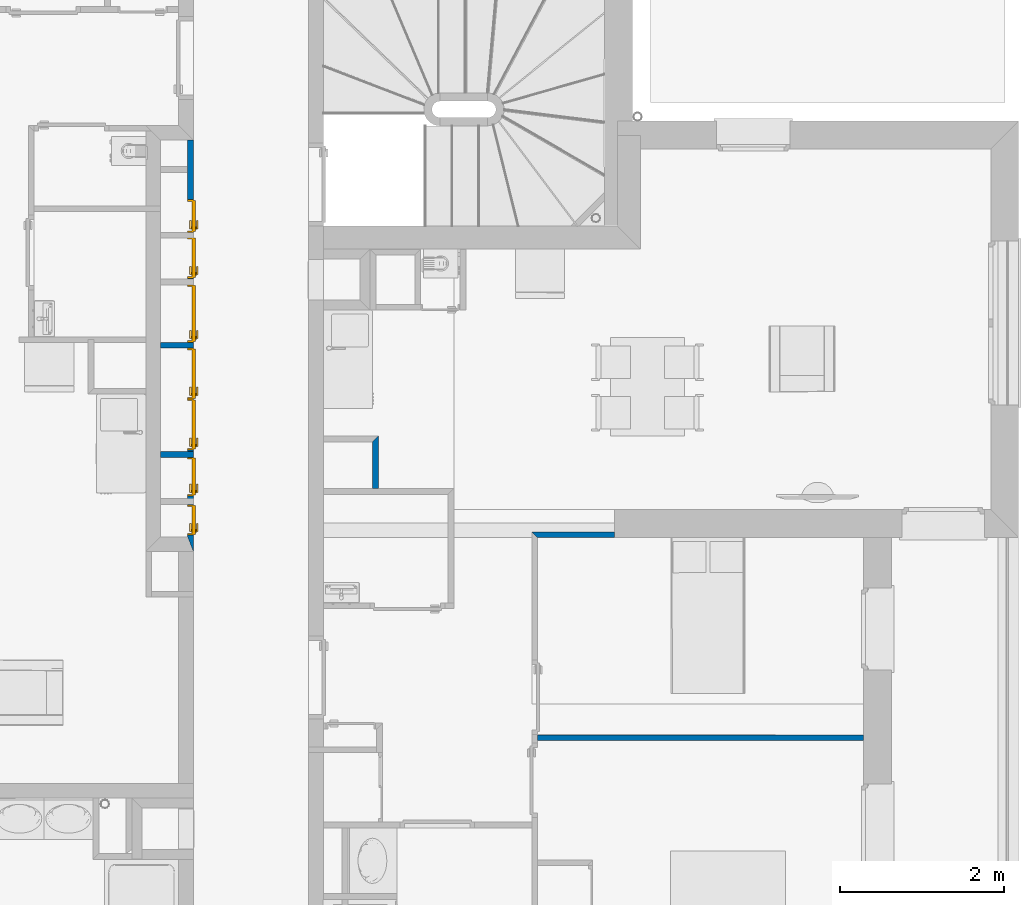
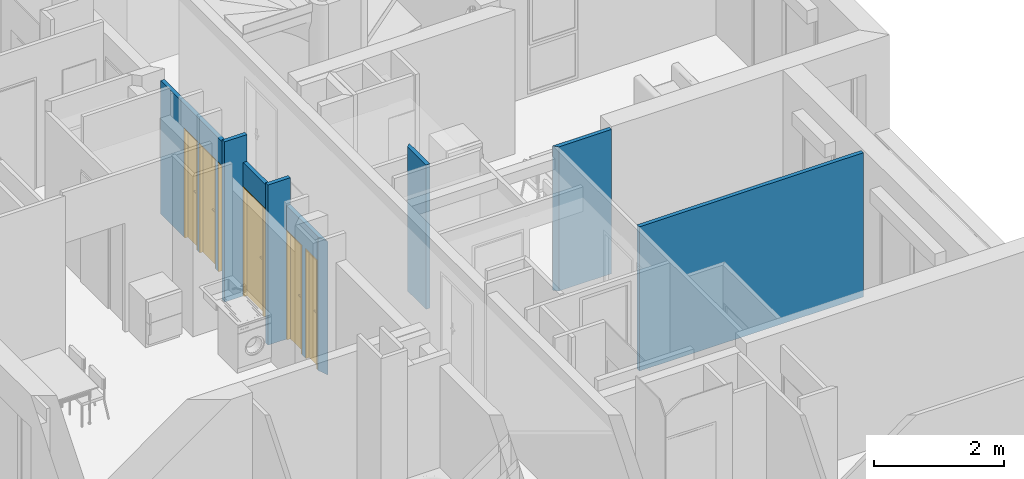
# One storey, part 23 of 164: 7 doors, 6 walls, 7 openings.
"""IFC2X3 building model written with IfcOpenShell, lengths in millimetres."""

import ifcopenshell
import ifcopenshell.guid

model = None  # the IFC model being written
_history = None  # IfcOwnerHistory: only IFC2X3 demands one
_inside = {}  # id of a spatial element -> (the spatial element, [elements in it])
_under = {}  # id of a project, library or spatial element -> (it, [spatial elements below it])
_declared = {}  # id of a project -> (the project, [libraries it declares])
_typed = {}  # id of a type object -> (the type object, [elements of that type])
_made_of = {}  # id of a material, layer set ... -> (it, [elements and type objects made of it])


def new_model(schema):
    """Start an empty IFC model of exactly this schema.

    Asked for "IFC4X3", IfcOpenShell would pick the latest addendum, in which some entities
    have other attributes; the version numbers below select the first issue.
    IFC2X3 requires an IfcOwnerHistory on every rooted entity: one is made here for all.
    """
    global model, _history
    if schema == "IFC4X3":
        model = ifcopenshell.file(schema_version=(4, 3, 0, 0))
    else:
        model = ifcopenshell.file(schema=schema)
    _inside.clear()
    _under.clear()
    _declared.clear()
    _typed.clear()
    _made_of.clear()
    _history = None
    if model.schema == "IFC2X3":
        org = make("IfcOrganization", Name="unknown")
        user = make(
            "IfcPersonAndOrganization",
            ThePerson=make("IfcPerson", FamilyName="unknown"),
            TheOrganization=org,
        )
        app = make(
            "IfcApplication",
            ApplicationDeveloper=org,
            Version="unknown",
            ApplicationFullName="unknown",
            ApplicationIdentifier="unknown",
        )
        _history = make(
            "IfcOwnerHistory",
            OwningUser=user,
            OwningApplication=app,
            ChangeAction="ADDED",
            CreationDate=0,
        )
    return model


def make(cls, **values):
    """One entity of the class cls with the attributes given. An attribute that is None is left unset."""
    return model.create_entity(
        cls, **{name: value for name, value in values.items() if value is not None}
    )


def entity(cls, *values):
    """Any entity or typed value of the class cls, its attributes in the order of the schema. None: left unset."""
    e = model.create_entity(cls)
    for i, value in enumerate(values):
        if value is not None:
            e[i] = value
    return e


def rooted(cls, **values):
    """An entity with a GlobalId (a new one), such as an element, a storey or a relation."""
    return make(cls, GlobalId=ifcopenshell.guid.new(), OwnerHistory=_history, **values)


def si_unit(unit_type, name, prefix=None):
    """IfcSIUnit, for example si_unit("LENGTHUNIT", "METRE", prefix="MILLI")."""
    return make("IfcSIUnit", UnitType=unit_type, Prefix=prefix, Name=name)


def converted_unit(unit_type, name, factor, base, dimensions=None, offset=None):
    """IfcConversionBasedUnit, such as the inch: factor (a typed value) times the base unit."""
    return make(
        "IfcConversionBasedUnit"
        if offset is None
        else "IfcConversionBasedUnitWithOffset",
        ConversionOffset=offset,
        Dimensions=None
        if dimensions is None
        else entity("IfcDimensionalExponents", *dimensions),
        UnitType=unit_type,
        Name=name,
        ConversionFactor=make(
            "IfcMeasureWithUnit", ValueComponent=factor, UnitComponent=base
        ),
    )


def derived_unit(unit_type, elements):
    """IfcDerivedUnit: a product of units, each with its exponent."""
    return make(
        "IfcDerivedUnit",
        Elements=[
            make("IfcDerivedUnitElement", Unit=unit, Exponent=power)
            for unit, power in elements
        ],
        UnitType=unit_type,
    )


def money_unit(currency):
    """IfcMonetaryUnit."""
    return make("IfcMonetaryUnit", Currency=currency)


def assignment(units):
    """IfcUnitAssignment: the units of a project."""
    return None if units is None else make("IfcUnitAssignment", Units=units)


def point(xyz):
    """IfcCartesianPoint."""
    return None if xyz is None else make("IfcCartesianPoint", Coordinates=xyz)


def direction(xyz):
    """IfcDirection."""
    return None if xyz is None else make("IfcDirection", DirectionRatios=xyz)


def frame(location, z_axis=None, x_axis=None):
    """IfcAxis2Placement3D, a coordinate frame: its origin and axes. An axis left out is left unset."""
    return make(
        "IfcAxis2Placement3D",
        Location=point(location),
        Axis=direction(z_axis),
        RefDirection=direction(x_axis),
    )


def frame_2d(location, x_axis=None):
    """IfcAxis2Placement2D, a coordinate frame in the plane: its origin and x axis."""
    return make(
        "IfcAxis2Placement2D", Location=point(location), RefDirection=direction(x_axis)
    )


def origin_with_axes():
    """The frame at (0, 0, 0) with the z axis (0, 0, 1) and the x axis (1, 0, 0) written out."""
    return frame((0.0, 0.0, 0.0), z_axis=(0.0, 0.0, 1.0), x_axis=(1.0, 0.0, 0.0))


def origin_2d_with_axis():
    """The frame at (0, 0) in the plane with the x axis (1, 0) written out."""
    return frame_2d((0.0, 0.0), x_axis=(1.0, 0.0))


def place(relative_to, where):
    """IfcLocalPlacement: puts the frame where relative to a parent placement (None: the world)."""
    return make(
        "IfcLocalPlacement", PlacementRelTo=relative_to, RelativePlacement=where
    )


def context(
    kind, dimensions, precision=None, world=None, true_north=None, identifier=None
):
    """IfcGeometricRepresentationContext, for example the 3D "Model" context."""
    return make(
        "IfcGeometricRepresentationContext",
        ContextIdentifier=identifier,
        ContextType=kind,
        CoordinateSpaceDimension=dimensions,
        Precision=precision,
        WorldCoordinateSystem=world,
        TrueNorth=true_north,
    )


def subcontext(parent, identifier, kind, view, scale=None):
    """IfcGeometricRepresentationSubContext, for example "Body" below "Model"."""
    return make(
        "IfcGeometricRepresentationSubContext",
        ContextIdentifier=identifier,
        ContextType=kind,
        ParentContext=parent,
        TargetScale=scale,
        TargetView=view,
    )


def project(units=None, contexts=None):
    """IfcProject with its units and contexts."""
    return rooted(
        "IfcProject",
        Name="project",
        RepresentationContexts=contexts,
        UnitsInContext=assignment(units),
    )


def spatial(cls, under=None, at=None, **own):
    """A site, building, storey or space (cls), placed at a placement, below another one or the project."""
    s = rooted(cls, ObjectPlacement=at, **own)
    if under is not None:
        _under.setdefault(under.id(), (under, []))[1].append(s)
    return s


def polyline(points):
    """IfcPolyline through the points."""
    return make("IfcPolyline", Points=[point(p) for p in points])


def profile(cls, at=None, kind="AREA", **sizes):
    """A parametric profile (cls). Its sizes go by their IFC names, for example OverallWidth=200.0."""
    return make(cls, ProfileType=kind, Position=at, **sizes)


def rectangle(**sizes):
    """IfcRectangleProfileDef."""
    return profile("IfcRectangleProfileDef", **sizes)


def outline(outer, holes=None, kind="AREA"):
    """IfcArbitraryClosedProfileDef: a profile drawn as a closed curve; with holes, ...WithVoids."""
    if holes is None:
        return make("IfcArbitraryClosedProfileDef", ProfileType=kind, OuterCurve=outer)
    return make(
        "IfcArbitraryProfileDefWithVoids",
        ProfileType=kind,
        OuterCurve=outer,
        InnerCurves=holes,
    )


def extrude(swept, where, along, depth):
    """IfcExtrudedAreaSolid: the profile swept, set in the frame where, extruded along a direction by depth."""
    return make(
        "IfcExtrudedAreaSolid",
        SweptArea=swept,
        Position=where,
        ExtrudedDirection=direction(along),
        Depth=depth,
    )


def faces_of(points, faces, orient=None, outer=None):
    """IfcFace entities. A face is a list of loops; a loop is a list of indices into points, from 0.

    orient and outer hold one flag for each loop. By default every Orientation is true, the
    first loop of a face is its IfcFaceOuterBound and the others are IfcFaceBound.
    """
    made = []
    for i, loops in enumerate(faces):
        bounds = []
        for j, loop in enumerate(loops):
            is_outer = j == 0 if outer is None else outer[i][j]
            bounds.append(
                make(
                    "IfcFaceOuterBound" if is_outer else "IfcFaceBound",
                    Bound=make("IfcPolyLoop", Polygon=[points[k] for k in loop]),
                    Orientation=True if orient is None else orient[i][j],
                )
            )
        made.append(make("IfcFace", Bounds=bounds))
    return made


def faceted_brep(points, faces, orient=None, outer=None, voids=None):
    """IfcFacetedBrep: a solid bounded by flat faces; with voids (closed shells), ...WithVoids."""
    shared = [point(p) for p in points]
    hull = make("IfcClosedShell", CfsFaces=faces_of(shared, faces, orient, outer))
    if voids is None:
        return make("IfcFacetedBrep", Outer=hull)
    return make(
        "IfcFacetedBrepWithVoids",
        Outer=hull,
        Voids=[
            make(cls, CfsFaces=faces_of(shared, fs, o, b)) for cls, fs, o, b in voids
        ],
    )


def shape(context_of_items, identifier, shape_type, items):
    """IfcShapeRepresentation: the items that make up one representation, for example the "Body"."""
    return make(
        "IfcShapeRepresentation",
        ContextOfItems=context_of_items,
        RepresentationIdentifier=identifier,
        RepresentationType=shape_type,
        Items=items,
    )


def source(mapping_origin, context_of_items, identifier, shape_type, items):
    """IfcRepresentationMap: a shape defined once, which mapped items show again and again."""
    return make(
        "IfcRepresentationMap",
        MappingOrigin=mapping_origin,
        MappedRepresentation=shape(context_of_items, identifier, shape_type, items),
    )


def transform(
    local_origin,
    x_axis=None,
    y_axis=None,
    z_axis=None,
    scale=None,
    scale2=None,
    scale3=None,
    uniform=True,
):
    """IfcCartesianTransformationOperator3D, or its non-uniform kind. x_axis, y_axis, z_axis: its Axis1, 2, 3."""
    if uniform:
        return make(
            "IfcCartesianTransformationOperator3D",
            Axis1=direction(x_axis),
            Axis2=direction(y_axis),
            LocalOrigin=point(local_origin),
            Scale=scale,
            Axis3=direction(z_axis),
        )
    return make(
        "IfcCartesianTransformationOperator3DnonUniform",
        Axis1=direction(x_axis),
        Axis2=direction(y_axis),
        LocalOrigin=point(local_origin),
        Scale=scale,
        Axis3=direction(z_axis),
        Scale2=scale2,
        Scale3=scale3,
    )


def mapped(mapping_source, mapping_target):
    """IfcMappedItem: shows the shape of a source again, moved by a transform."""
    return make(
        "IfcMappedItem", MappingSource=mapping_source, MappingTarget=mapping_target
    )


def material(Name=None, Category=None):
    """IfcMaterial."""
    return make("IfcMaterial", Name=Name, Category=Category)


def layer(
    of_material, thickness, ventilated=None, Name=None, Category=None, Priority=None
):
    """IfcMaterialLayer: one layer of a wall or slab, of a material (None: an air gap)."""
    return make(
        "IfcMaterialLayer",
        Material=of_material,
        LayerThickness=thickness,
        IsVentilated=ventilated,
        Name=Name,
        Category=Category,
        Priority=Priority,
    )


def layer_set(layers, Name=None):
    """IfcMaterialLayerSet."""
    return make("IfcMaterialLayerSet", MaterialLayers=layers, LayerSetName=Name)


def layer_usage(for_layer_set, set_direction, sense, offset, extent=None):
    """IfcMaterialLayerSetUsage: how a layer set lies in its element."""
    return make(
        "IfcMaterialLayerSetUsage",
        ForLayerSet=for_layer_set,
        LayerSetDirection=set_direction,
        DirectionSense=sense,
        OffsetFromReferenceLine=offset,
        ReferenceExtent=extent,
    )


def made_of(thing, what):
    """Note that an element or type object is made of a material, layer set ...; save() writes the relation."""
    if what is not None:
        _made_of.setdefault(what.id(), (what, []))[1].append(thing)
    return thing


def type_object(cls, material=None, **own):
    """A type object (cls), such as IfcWallType, which elements share."""
    return made_of(rooted(cls, **own), material)


def element(
    cls,
    number,
    at=None,
    inside=None,
    cuts=None,
    type_object=None,
    material=None,
    context=None,
    identifier="Body",
    shape_type=None,
    held_by="IfcProductDefinitionShape",
    body=None,
    shapes=None,
    **own,
):
    """One element of the class cls, such as IfcWall. Its Tag is "e" and its number.

    at: its placement. inside: the storey or other place that contains it. cuts: it is an
    opening in that element (IfcRelVoidsElement). A single representation is given by context,
    identifier, shape_type and body (its items); several are given by shapes. held_by: the class
    of the entity that holds the representations. save() writes the other relations.
    """
    e = rooted(cls, Tag="e%d" % number, ObjectPlacement=at, **own)
    if body is not None:
        shapes = [shape(context, identifier, shape_type, body)]
    if shapes is not None:
        e.Representation = make(held_by, Representations=shapes)
    if inside is not None:
        _inside.setdefault(inside.id(), (inside, []))[1].append(e)
    if cuts is not None:
        rooted(
            "IfcRelVoidsElement", RelatingBuildingElement=cuts, RelatedOpeningElement=e
        )
    if type_object is not None:
        _typed.setdefault(type_object.id(), (type_object, []))[1].append(e)
    return made_of(e, material)


def fill(opening, filler):
    """IfcRelFillsElement: the door or window that sits in an opening."""
    return rooted(
        "IfcRelFillsElement",
        RelatingOpeningElement=opening,
        RelatedBuildingElement=filler,
    )


def aggregate(whole, parts):
    """IfcRelAggregates: a whole, such as a stair, and the parts it consists of."""
    return rooted("IfcRelAggregates", RelatingObject=whole, RelatedObjects=parts)


def save(model, path):
    """Write the relations noted so far, then the file.

    IfcRelAggregates (storeys below a building ...), IfcRelContainedInSpatialStructure (elements
    in a storey), IfcRelDefinesByType, IfcRelAssociatesMaterial and IfcRelDeclares: one each for
    every whole, place, type object, material and project.
    """
    for whole, parts in _under.values():
        aggregate(whole, parts)
    for where, things in _inside.values():
        rooted(
            "IfcRelContainedInSpatialStructure",
            RelatedElements=things,
            RelatingStructure=where,
        )
    for kind, things in _typed.values():
        rooted("IfcRelDefinesByType", RelatedObjects=things, RelatingType=kind)
    for what, things in _made_of.values():
        rooted("IfcRelAssociatesMaterial", RelatedObjects=things, RelatingMaterial=what)
    for by, libraries in _declared.values():
        rooted("IfcRelDeclares", RelatingContext=by, RelatedDefinitions=libraries)
    model.write(path)


model = new_model("IFC2X3")

# Units and contexts
model_context = context("Model", 3, precision=0.01, world=origin_with_axes(), true_north=direction((0.0, 1.0)))
body_context = subcontext(model_context, "Body", "Model", "MODEL_VIEW")
ifc_project = project(units=[si_unit("LENGTHUNIT", "METRE", prefix="MILLI"), si_unit("AREAUNIT", "SQUARE_METRE"), si_unit("VOLUMEUNIT", "CUBIC_METRE"), converted_unit("PLANEANGLEUNIT", "DEGREE", entity("IfcPlaneAngleMeasure", 0.0174532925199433), si_unit("PLANEANGLEUNIT", "RADIAN"), dimensions=[0, 0, 0, 0, 0, 0, 0]), money_unit("USD"), converted_unit("TIMEUNIT", "Year", entity("IfcTimeMeasure", 31557600.0), si_unit("TIMEUNIT", "SECOND"), dimensions=[0, 0, 1, 0, 0, 0, 0]), si_unit("MASSUNIT", "GRAM", prefix="KILO"), si_unit("THERMODYNAMICTEMPERATUREUNIT", "DEGREE_CELSIUS"), si_unit("LUMINOUSINTENSITYUNIT", "LUMEN"), si_unit("ENERGYUNIT", "JOULE", prefix="MEGA"), derived_unit("THERMALCONDUCTANCEUNIT", [(si_unit("POWERUNIT", "WATT"), 1), (si_unit("LENGTHUNIT", "METRE"), -1), (si_unit("THERMODYNAMICTEMPERATUREUNIT", "KELVIN"), -1)]), derived_unit("SPECIFICHEATCAPACITYUNIT", [(si_unit("ENERGYUNIT", "JOULE"), 1), (si_unit("MASSUNIT", "GRAM", prefix="KILO"), -1), (si_unit("THERMODYNAMICTEMPERATUREUNIT", "KELVIN"), -1)]), derived_unit("MASSDENSITYUNIT", [(si_unit("MASSUNIT", "GRAM", prefix="KILO"), 1), (si_unit("VOLUMEUNIT", "CUBIC_METRE"), -1)])], contexts=[model_context])

# Site, building, storey
site_placement = place(None, origin_with_axes())
site = spatial("IfcSite", under=ifc_project, at=site_placement, Name="Site", CompositionType="ELEMENT")
building_placement = place(site_placement, origin_with_axes())
building = spatial("IfcBuilding", under=site, at=building_placement, Name="Bâtiment", CompositionType="ELEMENT")
storey_placement = place(building_placement, frame((0.0, 0.0, 5750.0), z_axis=(0.0, 0.0, 1.0), x_axis=(1.0, 0.0, 0.0)))
storey = spatial("IfcBuildingStorey", under=building, at=storey_placement, Name="Etage1", CompositionType="ELEMENT", Elevation=5750.0)

# Walls
ifc_material_1 = material(Name="Hachure solide 268963992")
ifc_layer_1 = layer(ifc_material_1, 70.0, ventilated="UNKNOWN")
ifc_layer_set_1 = layer_set([ifc_layer_1], Name="Cloison 70 0826278243")
ifc_layer_usage_1 = layer_usage(ifc_layer_set_1, "AXIS2", "NEGATIVE", 0.0)
wall_type_1 = type_object("IfcWallType", Name="Cloison 70 0826278243 70", PredefinedType="NOTDEFINED")
wall_1_placement = place(storey_placement, frame((2223732.399968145, -638649.3890085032, 0.0), z_axis=(0.0, 0.0, 1.0), x_axis=(1.0, 0.0, 0.0)))
element("IfcWallStandardCase", 1, at=wall_1_placement, inside=storey, type_object=wall_type_1, material=ifc_layer_usage_1, Name="Mur-121", context=body_context, shape_type="SweptSolid", body=[
    extrude(outline(polyline([(180.0001527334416, -69.99999999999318), (580.0522319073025, -69.99999999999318), (580.0522319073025, 0.0), (180.0001527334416, 0.0), (180.0001527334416, -69.99999999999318)])), origin_with_axes(), (0.0, 0.0, 1.0), 3000.0),
])
ifc_layer_usage_2 = layer_usage(ifc_layer_set_1, "AXIS2", "NEGATIVE", 0.0)
wall_2_placement = place(storey_placement, frame((2223732.399920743, -639979.3889931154, 0.0), z_axis=(0.0, 0.0, 1.0), x_axis=(1.0, 0.0, 0.0)))
element("IfcWallStandardCase", 2, at=wall_2_placement, inside=storey, type_object=wall_type_1, material=ifc_layer_usage_2, Name="Mur-121", context=body_context, shape_type="SweptSolid", body=[
    extrude(outline(polyline([(180.0002001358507, -69.99999999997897), (580.0522801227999, -69.99999999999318), (580.0522801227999, 0.0), (180.0002001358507, 0.0), (180.0002001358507, -69.99999999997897)])), origin_with_axes(), (0.0, 0.0, 1.0), 3000.0),
])

# Wall, openings, doors
ifc_layer_usage_3 = layer_usage(ifc_layer_set_1, "AXIS2", "NEGATIVE", 0.0)
wall_3_placement = place(storey_placement, frame((2224312.400738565, -636187.2995732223, 0.0), z_axis=(0.0, 0.0, 1.0), x_axis=(-2.855749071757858e-07, -0.9999999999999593, 0.0)))
wall_3 = element("IfcWallStandardCase", 3, at=wall_3_placement, inside=storey, type_object=wall_type_1, material=ifc_layer_usage_3, Name="Mur-120", context=body_context, shape_type="SweptSolid", body=[
    extrude(outline(polyline([(0.0, -70.00000000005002), (4829.440247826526, -70.00000000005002), (5009.440402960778, 0.0), (0.0, 0.0), (0.0, -70.00000000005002)])), origin_with_axes(), (0.0, 0.0, 1.0), 2500.0),
])
opening_1_placement = place(wall_3_placement, frame((924.8478023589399, 0.0, 0.0), z_axis=(0.0, 0.0, 1.0), x_axis=(1.0, 0.0, 0.0)))
opening_1 = element("IfcOpeningElement", 4, at=opening_1_placement, cuts=wall_3, Name="Por-202", context=body_context, shape_type="SweptSolid", body=[
    extrude(rectangle(XDim=399.9999999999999, YDim=2050.0, at=origin_2d_with_axis()), frame((0.0, -70.00000000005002, 1025.0), z_axis=(0.0, -1.0, 0.0), x_axis=(-1.0, 0.0, 0.0)), (0.0, 0.0, -1.0), 140.0),
])
opening_2_placement = place(wall_3_placement, frame((2112.089435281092, 0.0, 0.0), z_axis=(0.0, 0.0, 1.0), x_axis=(1.0, 0.0, 0.0)))
opening_2 = element("IfcOpeningElement", 5, at=opening_2_placement, cuts=wall_3, Name="Por-202", context=body_context, shape_type="SweptSolid", body=[
    extrude(rectangle(XDim=700.0, YDim=2050.0, at=origin_2d_with_axis()), frame((0.0, -70.00000000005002, 1025.0), z_axis=(0.0, -1.0, 0.0), x_axis=(-1.0, 0.0, 0.0)), (0.0, 0.0, -1.0), 140.0),
])
opening_3_placement = place(wall_3_placement, frame((1432.092668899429, 0.0, 0.0), z_axis=(0.0, 0.0, 1.0), x_axis=(1.0, 0.0, 0.0)))
opening_3 = element("IfcOpeningElement", 6, at=opening_3_placement, cuts=wall_3, Name="Por-202", context=body_context, shape_type="SweptSolid", body=[
    extrude(rectangle(XDim=499.9999999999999, YDim=2050.0, at=origin_2d_with_axis()), frame((0.0, -70.00000000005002, 1025.0), z_axis=(0.0, -1.0, 0.0), x_axis=(-1.0, 0.0, 0.0)), (0.0, 0.0, -1.0), 140.0),
])
opening_4_placement = place(wall_3_placement, frame((2842.089458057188, 0.0, 0.0), z_axis=(0.0, 0.0, 1.0), x_axis=(1.0, 0.0, 0.0)))
opening_4 = element("IfcOpeningElement", 7, at=opening_4_placement, cuts=wall_3, Name="Por-202", context=body_context, shape_type="SweptSolid", body=[
    extrude(rectangle(XDim=619.9999999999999, YDim=2050.0, at=origin_2d_with_axis()), frame((0.0, -70.00000000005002, 1025.0), z_axis=(0.0, -1.0, 0.0), x_axis=(-1.0, 0.0, 0.0)), (0.0, 0.0, -1.0), 140.0),
])
opening_5_placement = place(wall_3_placement, frame((4097.089442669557, 0.0, 0.0), z_axis=(0.0, 0.0, 1.0), x_axis=(1.0, 0.0, 0.0)))
opening_5 = element("IfcOpeningElement", 8, at=opening_5_placement, cuts=wall_3, Name="Por-202", context=body_context, shape_type="SweptSolid", body=[
    extrude(rectangle(XDim=470.0, YDim=2050.0, at=origin_2d_with_axis()), frame((0.0, -70.00000000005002, 1025.0), z_axis=(0.0, -1.0, 0.0), x_axis=(-1.0, 0.0, 0.0)), (0.0, 0.0, -1.0), 140.0),
])
opening_6_placement = place(wall_3_placement, frame((3462.089458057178, 0.0, 0.0), z_axis=(0.0, 0.0, 1.0), x_axis=(1.0, 0.0, 0.0)))
opening_6 = element("IfcOpeningElement", 9, at=opening_6_placement, cuts=wall_3, Name="Por-202", context=body_context, shape_type="SweptSolid", body=[
    extrude(rectangle(XDim=619.9999999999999, YDim=2050.0, at=origin_2d_with_axis()), frame((0.0, -70.00000000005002, 1025.0), z_axis=(0.0, -1.0, 0.0), x_axis=(-1.0, 0.0, 0.0)), (0.0, 0.0, -1.0), 140.0),
])
opening_7_placement = place(wall_3_placement, frame((4624.002569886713, 0.0, 0.0), z_axis=(0.0, 0.0, 1.0), x_axis=(1.0, 0.0, 0.0)))
opening_7 = element("IfcOpeningElement", 10, at=opening_7_placement, cuts=wall_3, Name="Por-202", context=body_context, shape_type="SweptSolid", body=[
    extrude(rectangle(XDim=369.9999999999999, YDim=2050.0, at=origin_2d_with_axis()), frame((0.0, -70.00000000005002, 1025.0), z_axis=(0.0, -1.0, 0.0), x_axis=(-1.0, 0.0, 0.0)), (0.0, 0.0, -1.0), 140.0),
])
door_style = type_object("IfcDoorStyle", Name="Porte_1v", ConstructionType="NOTDEFINED", OperationType="NOTDEFINED", ParameterTakesPrecedence=False, Sizeable=False)
shared_shape_1 = source(origin_with_axes(), body_context, "Body", "Brep", [
    faceted_brep([(-200.0, 0.0, 0.0), (-200.0, 0.0, 2050.0), (200.0, 0.0, 2050.0), (200.0, 0.0, 0.0), (190.0, 0.0, 0.0), (190.0, 0.0, 2040.0), (-190.0, 0.0, 2040.0), (-190.0, 0.0, 0.0), (-200.0, -70.0, 0.0), (-200.0, -70.0, 2050.0), (200.0, -70.0, 2050.0), (200.0, -70.0, 0.0), (180.0, -70.0, 0.0), (180.0, -15.0, 0.0), (190.0, -15.0, 0.0), (190.0, -15.0, 2040.0), (-190.0, -15.0, 2040.0), (-190.0, -15.0, 0.0), (-180.0, -15.0, 0.0), (-180.0, -70.0, 0.0), (-180.0, -70.0, 2030.0), (180.0, -70.0, 2030.0), (180.0, -15.0, 2030.0), (-180.0, -15.0, 2030.0)], [[[0, 1, 2, 3, 4, 5, 6, 7]], [[8, 9, 1, 0]], [[9, 10, 2, 1]], [[10, 11, 3, 2]], [[3, 11, 12, 13, 14, 4]], [[5, 4, 14, 15]], [[6, 5, 15, 16]], [[7, 6, 16, 17]], [[0, 7, 17, 18, 19, 8]], [[19, 20, 21, 12, 11, 10, 9, 8]], [[22, 13, 12, 21]], [[17, 16, 15, 14, 13, 22, 23, 18]], [[18, 23, 20, 19]], [[23, 22, 21, 20]]]),
    faceted_brep([(125.0, -15.0, 900.0), (125.0, -15.0, 1100.0), (165.0, -15.0, 1100.0), (165.0, -15.0, 900.0), (125.0, -25.0, 900.0), (125.0, -25.0, 1100.0), (165.0, -25.0, 1100.0), (165.0, -25.0, 900.0)], [[[0, 1, 2, 3]], [[0, 4, 5, 1]], [[1, 5, 6, 2]], [[2, 6, 7, 3]], [[3, 7, 4, 0]], [[7, 6, 5, 4]]]),
    faceted_brep([(54.99999999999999, -25.0, 1000.0), (54.99999999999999, -25.0, 1020.0), (155.0, -25.0, 1020.0), (155.0, -25.0, 1000.0), (54.99999999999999, -45.0, 1000.0), (54.99999999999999, -45.0, 1020.0), (155.0, -45.0, 1020.0), (155.0, -45.0, 1000.0)], [[[0, 1, 2, 3]], [[0, 4, 5, 1]], [[1, 5, 6, 2]], [[2, 6, 7, 3]], [[3, 7, 4, 0]], [[7, 6, 5, 4]]]),
    faceted_brep([(125.0, 35.0, 900.0), (125.0, 35.0, 1100.0), (165.0, 35.0, 1100.0), (165.0, 35.0, 900.0), (125.0, 25.0, 900.0), (125.0, 25.0, 1100.0), (165.0, 25.0, 1100.0), (165.0, 25.0, 900.0)], [[[0, 1, 2, 3]], [[0, 4, 5, 1]], [[1, 5, 6, 2]], [[2, 6, 7, 3]], [[3, 7, 4, 0]], [[7, 6, 5, 4]]]),
    faceted_brep([(54.99999999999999, 55.00000000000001, 1000.0), (54.99999999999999, 55.00000000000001, 1020.0), (155.0, 55.00000000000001, 1020.0), (155.0, 55.00000000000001, 1000.0), (54.99999999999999, 35.0, 1000.0), (54.99999999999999, 35.0, 1020.0), (155.0, 35.0, 1020.0), (155.0, 35.0, 1000.0)], [[[0, 1, 2, 3]], [[0, 4, 5, 1]], [[1, 5, 6, 2]], [[2, 6, 7, 3]], [[3, 7, 4, 0]], [[7, 6, 5, 4]]]),
    faceted_brep([(190.0, 25.0, 0.0), (190.0, -15.0, 0.0), (-190.0, -15.0, 0.0), (-190.0, 25.0, 0.0), (190.0, 25.0, 2040.0), (190.0, -15.0, 2040.0), (-190.0, -15.0, 2040.0), (-190.0, 25.0, 2040.0)], [[[0, 1, 2, 3]], [[4, 5, 1, 0]], [[1, 5, 6, 2]], [[3, 2, 6, 7]], [[0, 3, 7, 4]], [[7, 6, 5, 4]]]),
])
door_1_placement = place(opening_1_placement, frame((-190.0000000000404, -1.13686837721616e-10, 0.0), z_axis=(0.0, 0.0, 1.0), x_axis=(1.0, 0.0, 0.0)))
door_1 = element("IfcDoor", 11, at=door_1_placement, inside=storey, type_object=door_style, Name="Por-202", OverallHeight=2040.0, OverallWidth=380.0, context=body_context, shape_type="MappedRepresentation", body=[
    mapped(shared_shape_1, transform((189.9999999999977, 0.0, 0.0))),
])
fill(opening_1, door_1)
shared_shape_2 = source(origin_with_axes(), body_context, "Body", "Brep", [
    faceted_brep([(-310.0, 0.0, 0.0), (-310.0, 0.0, 2050.0), (310.0, 0.0, 2050.0), (310.0, 0.0, 0.0), (300.0, 0.0, 0.0), (300.0, 0.0, 2040.0), (-300.0, 0.0, 2040.0), (-300.0, 0.0, 0.0), (-310.0, -70.0, 0.0), (-310.0, -70.0, 2050.0), (310.0, -70.0, 2050.0), (310.0, -70.0, 0.0), (290.0, -70.0, 0.0), (290.0, -15.0, 0.0), (300.0, -15.0, 0.0), (300.0, -15.0, 2040.0), (-300.0, -15.0, 2040.0), (-300.0, -15.0, 0.0), (-290.0, -15.0, 0.0), (-290.0, -70.0, 0.0), (-290.0, -70.0, 2030.0), (290.0, -70.0, 2030.0), (290.0, -15.0, 2030.0), (-290.0, -15.0, 2030.0)], [[[0, 1, 2, 3, 4, 5, 6, 7]], [[8, 9, 1, 0]], [[9, 10, 2, 1]], [[10, 11, 3, 2]], [[3, 11, 12, 13, 14, 4]], [[5, 4, 14, 15]], [[6, 5, 15, 16]], [[7, 6, 16, 17]], [[0, 7, 17, 18, 19, 8]], [[19, 20, 21, 12, 11, 10, 9, 8]], [[22, 13, 12, 21]], [[17, 16, 15, 14, 13, 22, 23, 18]], [[18, 23, 20, 19]], [[23, 22, 21, 20]]]),
    faceted_brep([(235.0, -15.0, 900.0), (235.0, -15.0, 1100.0), (274.9999999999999, -15.0, 1100.0), (274.9999999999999, -15.0, 900.0), (235.0, -25.0, 900.0), (235.0, -25.0, 1100.0), (274.9999999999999, -25.0, 1100.0), (274.9999999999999, -25.0, 900.0)], [[[0, 1, 2, 3]], [[0, 4, 5, 1]], [[1, 5, 6, 2]], [[2, 6, 7, 3]], [[3, 7, 4, 0]], [[7, 6, 5, 4]]]),
    faceted_brep([(164.9999999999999, -25.0, 1000.0), (164.9999999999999, -25.0, 1020.0), (264.9999999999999, -25.0, 1020.0), (264.9999999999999, -25.0, 1000.0), (164.9999999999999, -45.0, 1000.0), (164.9999999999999, -45.0, 1020.0), (264.9999999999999, -45.0, 1020.0), (264.9999999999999, -45.0, 1000.0)], [[[0, 1, 2, 3]], [[0, 4, 5, 1]], [[1, 5, 6, 2]], [[2, 6, 7, 3]], [[3, 7, 4, 0]], [[7, 6, 5, 4]]]),
    faceted_brep([(235.0, 35.0, 900.0), (235.0, 35.0, 1100.0), (274.9999999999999, 35.0, 1100.0), (274.9999999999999, 35.0, 900.0), (235.0, 25.0, 900.0), (235.0, 25.0, 1100.0), (274.9999999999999, 25.0, 1100.0), (274.9999999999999, 25.0, 900.0)], [[[0, 1, 2, 3]], [[0, 4, 5, 1]], [[1, 5, 6, 2]], [[2, 6, 7, 3]], [[3, 7, 4, 0]], [[7, 6, 5, 4]]]),
    faceted_brep([(164.9999999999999, 55.00000000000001, 1000.0), (164.9999999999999, 55.00000000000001, 1020.0), (264.9999999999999, 55.00000000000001, 1020.0), (264.9999999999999, 55.00000000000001, 1000.0), (164.9999999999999, 35.0, 1000.0), (164.9999999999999, 35.0, 1020.0), (264.9999999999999, 35.0, 1020.0), (264.9999999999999, 35.0, 1000.0)], [[[0, 1, 2, 3]], [[0, 4, 5, 1]], [[1, 5, 6, 2]], [[2, 6, 7, 3]], [[3, 7, 4, 0]], [[7, 6, 5, 4]]]),
    faceted_brep([(300.0, 25.0, 0.0), (300.0, -15.0, 0.0), (-300.0, -15.0, 0.0), (-300.0, 25.0, 0.0), (300.0, 25.0, 2040.0), (300.0, -15.0, 2040.0), (-300.0, -15.0, 2040.0), (-300.0, 25.0, 2040.0)], [[[0, 1, 2, 3]], [[4, 5, 1, 0]], [[1, 5, 6, 2]], [[3, 2, 6, 7]], [[0, 3, 7, 4]], [[7, 6, 5, 4]]]),
])
door_2_placement = place(opening_4_placement, frame((-300.0000000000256, 0.0, 0.0), z_axis=(0.0, 0.0, 1.0), x_axis=(1.0, 0.0, 0.0)))
door_2 = element("IfcDoor", 12, at=door_2_placement, inside=storey, type_object=door_style, Name="Por-202", OverallHeight=2040.0, OverallWidth=600.0, context=body_context, shape_type="MappedRepresentation", body=[
    mapped(shared_shape_2, transform((299.9999999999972, 0.0, 0.0))),
])
fill(opening_4, door_2)
door_3_placement = place(opening_6_placement, frame((-299.9999999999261, -1.13686837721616e-10, 0.0), z_axis=(0.0, 0.0, 1.0), x_axis=(1.0, 0.0, 0.0)))
door_3 = element("IfcDoor", 13, at=door_3_placement, inside=storey, type_object=door_style, Name="Por-202", OverallHeight=2040.0, OverallWidth=600.0, context=body_context, shape_type="MappedRepresentation", body=[
    mapped(shared_shape_2, transform((299.9999999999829, 0.0, 0.0))),
])
fill(opening_6, door_3)
shared_shape_3 = source(origin_with_axes(), body_context, "Body", "Brep", [
    faceted_brep([(-350.0000000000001, 0.0, 0.0), (-350.0000000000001, 0.0, 2050.0), (350.0000000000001, 0.0, 2050.0), (350.0000000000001, 0.0, 0.0), (340.0, 0.0, 0.0), (340.0, 0.0, 2040.0), (-340.0, 0.0, 2040.0), (-340.0, 0.0, 0.0), (-350.0000000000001, -70.0, 0.0), (-350.0000000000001, -70.0, 2050.0), (350.0000000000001, -70.0, 2050.0), (350.0000000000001, -70.0, 0.0), (330.0, -70.0, 0.0), (330.0, -15.0, 0.0), (340.0, -15.0, 0.0), (340.0, -15.0, 2040.0), (-340.0, -15.0, 2040.0), (-340.0, -15.0, 0.0), (-330.0, -15.0, 0.0), (-330.0, -70.0, 0.0), (-330.0, -70.0, 2030.0), (330.0, -70.0, 2030.0), (330.0, -15.0, 2030.0), (-330.0, -15.0, 2030.0)], [[[0, 1, 2, 3, 4, 5, 6, 7]], [[8, 9, 1, 0]], [[9, 10, 2, 1]], [[10, 11, 3, 2]], [[3, 11, 12, 13, 14, 4]], [[5, 4, 14, 15]], [[6, 5, 15, 16]], [[7, 6, 16, 17]], [[0, 7, 17, 18, 19, 8]], [[19, 20, 21, 12, 11, 10, 9, 8]], [[22, 13, 12, 21]], [[17, 16, 15, 14, 13, 22, 23, 18]], [[18, 23, 20, 19]], [[23, 22, 21, 20]]]),
    faceted_brep([(275.0, -15.0, 900.0), (275.0, -15.0, 1100.0), (315.0, -15.0, 1100.0), (315.0, -15.0, 900.0), (275.0, -25.0, 900.0), (275.0, -25.0, 1100.0), (315.0, -25.0, 1100.0), (315.0, -25.0, 900.0)], [[[0, 1, 2, 3]], [[0, 4, 5, 1]], [[1, 5, 6, 2]], [[2, 6, 7, 3]], [[3, 7, 4, 0]], [[7, 6, 5, 4]]]),
    faceted_brep([(205.0, -25.0, 1000.0), (205.0, -25.0, 1020.0), (305.0, -25.0, 1020.0), (305.0, -25.0, 1000.0), (205.0, -45.0, 1000.0), (205.0, -45.0, 1020.0), (305.0, -45.0, 1020.0), (305.0, -45.0, 1000.0)], [[[0, 1, 2, 3]], [[0, 4, 5, 1]], [[1, 5, 6, 2]], [[2, 6, 7, 3]], [[3, 7, 4, 0]], [[7, 6, 5, 4]]]),
    faceted_brep([(275.0, 35.0, 900.0), (275.0, 35.0, 1100.0), (315.0, 35.0, 1100.0), (315.0, 35.0, 900.0), (275.0, 25.0, 900.0), (275.0, 25.0, 1100.0), (315.0, 25.0, 1100.0), (315.0, 25.0, 900.0)], [[[0, 1, 2, 3]], [[0, 4, 5, 1]], [[1, 5, 6, 2]], [[2, 6, 7, 3]], [[3, 7, 4, 0]], [[7, 6, 5, 4]]]),
    faceted_brep([(205.0, 55.00000000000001, 1000.0), (205.0, 55.00000000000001, 1020.0), (305.0, 55.00000000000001, 1020.0), (305.0, 55.00000000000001, 1000.0), (205.0, 35.0, 1000.0), (205.0, 35.0, 1020.0), (305.0, 35.0, 1020.0), (305.0, 35.0, 1000.0)], [[[0, 1, 2, 3]], [[0, 4, 5, 1]], [[1, 5, 6, 2]], [[2, 6, 7, 3]], [[3, 7, 4, 0]], [[7, 6, 5, 4]]]),
    faceted_brep([(340.0, 25.0, 0.0), (340.0, -15.0, 0.0), (-340.0, -15.0, 0.0), (-340.0, 25.0, 0.0), (340.0, 25.0, 2040.0), (340.0, -15.0, 2040.0), (-340.0, -15.0, 2040.0), (-340.0, 25.0, 2040.0)], [[[0, 1, 2, 3]], [[4, 5, 1, 0]], [[1, 5, 6, 2]], [[3, 2, 6, 7]], [[0, 3, 7, 4]], [[7, 6, 5, 4]]]),
])
door_4_placement = place(opening_2_placement, frame((-339.9999999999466, -1.13686837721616e-10, 0.0), z_axis=(0.0, 0.0, 1.0), x_axis=(1.0, 0.0, 0.0)))
door_4 = element("IfcDoor", 14, at=door_4_placement, inside=storey, type_object=door_style, Name="Por-202", OverallHeight=2040.0, OverallWidth=680.0, context=body_context, shape_type="MappedRepresentation", body=[
    mapped(shared_shape_3, transform((340.0000000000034, 0.0, 0.0))),
])
fill(opening_2, door_4)
shared_shape_4 = source(origin_with_axes(), body_context, "Body", "Brep", [
    faceted_brep([(-250.0, 0.0, 0.0), (-250.0, 0.0, 2050.0), (250.0, 0.0, 2050.0), (250.0, 0.0, 0.0), (240.0, 0.0, 0.0), (240.0, 0.0, 2040.0), (-240.0, 0.0, 2040.0), (-240.0, 0.0, 0.0), (-250.0, -70.0, 0.0), (-250.0, -70.0, 2050.0), (250.0, -70.0, 2050.0), (250.0, -70.0, 0.0), (230.0, -70.0, 0.0), (230.0, -15.0, 0.0), (240.0, -15.0, 0.0), (240.0, -15.0, 2040.0), (-240.0, -15.0, 2040.0), (-240.0, -15.0, 0.0), (-230.0, -15.0, 0.0), (-230.0, -70.0, 0.0), (-230.0, -70.0, 2030.0), (230.0, -70.0, 2030.0), (230.0, -15.0, 2030.0), (-230.0, -15.0, 2030.0)], [[[0, 1, 2, 3, 4, 5, 6, 7]], [[8, 9, 1, 0]], [[9, 10, 2, 1]], [[10, 11, 3, 2]], [[3, 11, 12, 13, 14, 4]], [[5, 4, 14, 15]], [[6, 5, 15, 16]], [[7, 6, 16, 17]], [[0, 7, 17, 18, 19, 8]], [[19, 20, 21, 12, 11, 10, 9, 8]], [[22, 13, 12, 21]], [[17, 16, 15, 14, 13, 22, 23, 18]], [[18, 23, 20, 19]], [[23, 22, 21, 20]]]),
    faceted_brep([(175.0, -15.0, 900.0), (175.0, -15.0, 1100.0), (215.0, -15.0, 1100.0), (215.0, -15.0, 900.0), (175.0, -25.0, 900.0), (175.0, -25.0, 1100.0), (215.0, -25.0, 1100.0), (215.0, -25.0, 900.0)], [[[0, 1, 2, 3]], [[0, 4, 5, 1]], [[1, 5, 6, 2]], [[2, 6, 7, 3]], [[3, 7, 4, 0]], [[7, 6, 5, 4]]]),
    faceted_brep([(105.0, -25.0, 1000.0), (105.0, -25.0, 1020.0), (205.0, -25.0, 1020.0), (205.0, -25.0, 1000.0), (105.0, -45.0, 1000.0), (105.0, -45.0, 1020.0), (205.0, -45.0, 1020.0), (205.0, -45.0, 1000.0)], [[[0, 1, 2, 3]], [[0, 4, 5, 1]], [[1, 5, 6, 2]], [[2, 6, 7, 3]], [[3, 7, 4, 0]], [[7, 6, 5, 4]]]),
    faceted_brep([(175.0, 35.0, 900.0), (175.0, 35.0, 1100.0), (215.0, 35.0, 1100.0), (215.0, 35.0, 900.0), (175.0, 25.0, 900.0), (175.0, 25.0, 1100.0), (215.0, 25.0, 1100.0), (215.0, 25.0, 900.0)], [[[0, 1, 2, 3]], [[0, 4, 5, 1]], [[1, 5, 6, 2]], [[2, 6, 7, 3]], [[3, 7, 4, 0]], [[7, 6, 5, 4]]]),
    faceted_brep([(105.0, 55.00000000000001, 1000.0), (105.0, 55.00000000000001, 1020.0), (205.0, 55.00000000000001, 1020.0), (205.0, 55.00000000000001, 1000.0), (105.0, 35.0, 1000.0), (105.0, 35.0, 1020.0), (205.0, 35.0, 1020.0), (205.0, 35.0, 1000.0)], [[[0, 1, 2, 3]], [[0, 4, 5, 1]], [[1, 5, 6, 2]], [[2, 6, 7, 3]], [[3, 7, 4, 0]], [[7, 6, 5, 4]]]),
    faceted_brep([(240.0, 25.0, 0.0), (240.0, -15.0, 0.0), (-240.0, -15.0, 0.0), (-240.0, 25.0, 0.0), (240.0, 25.0, 2040.0), (240.0, -15.0, 2040.0), (-240.0, -15.0, 2040.0), (-240.0, 25.0, 2040.0)], [[[0, 1, 2, 3]], [[4, 5, 1, 0]], [[1, 5, 6, 2]], [[3, 2, 6, 7]], [[0, 3, 7, 4]], [[7, 6, 5, 4]]]),
])
door_5_placement = place(opening_3_placement, frame((-240.0000000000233, -1.13686837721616e-10, 0.0), z_axis=(0.0, 0.0, 1.0), x_axis=(1.0, 0.0, 0.0)))
door_5 = element("IfcDoor", 15, at=door_5_placement, inside=storey, type_object=door_style, Name="Por-202", OverallHeight=2040.0, OverallWidth=480.0, context=body_context, shape_type="MappedRepresentation", body=[
    mapped(shared_shape_4, transform((240.0000000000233, 1.13686837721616e-10, 0.0))),
])
fill(opening_3, door_5)
shared_shape_5 = source(origin_with_axes(), body_context, "Body", "Brep", [
    faceted_brep([(-235.0, 0.0, 0.0), (-235.0, 0.0, 2050.0), (235.0, 0.0, 2050.0), (235.0, 0.0, 0.0), (225.0, 0.0, 0.0), (225.0, 0.0, 2040.0), (-225.0, 0.0, 2040.0), (-225.0, 0.0, 0.0), (-235.0, -70.0, 0.0), (-235.0, -70.0, 2050.0), (235.0, -70.0, 2050.0), (235.0, -70.0, 0.0), (215.0, -70.0, 0.0), (215.0, -15.0, 0.0), (225.0, -15.0, 0.0), (225.0, -15.0, 2040.0), (-225.0, -15.0, 2040.0), (-225.0, -15.0, 0.0), (-215.0, -15.0, 0.0), (-215.0, -70.0, 0.0), (-215.0, -70.0, 2030.0), (215.0, -70.0, 2030.0), (215.0, -15.0, 2030.0), (-215.0, -15.0, 2030.0)], [[[0, 1, 2, 3, 4, 5, 6, 7]], [[8, 9, 1, 0]], [[9, 10, 2, 1]], [[10, 11, 3, 2]], [[3, 11, 12, 13, 14, 4]], [[5, 4, 14, 15]], [[6, 5, 15, 16]], [[7, 6, 16, 17]], [[0, 7, 17, 18, 19, 8]], [[19, 20, 21, 12, 11, 10, 9, 8]], [[22, 13, 12, 21]], [[17, 16, 15, 14, 13, 22, 23, 18]], [[18, 23, 20, 19]], [[23, 22, 21, 20]]]),
    faceted_brep([(160.0, -15.0, 900.0), (160.0, -15.0, 1100.0), (200.0, -15.0, 1100.0), (200.0, -15.0, 900.0), (160.0, -25.0, 900.0), (160.0, -25.0, 1100.0), (200.0, -25.0, 1100.0), (200.0, -25.0, 900.0)], [[[0, 1, 2, 3]], [[0, 4, 5, 1]], [[1, 5, 6, 2]], [[2, 6, 7, 3]], [[3, 7, 4, 0]], [[7, 6, 5, 4]]]),
    faceted_brep([(90.0, -25.0, 1000.0), (90.0, -25.0, 1020.0), (190.0, -25.0, 1020.0), (190.0, -25.0, 1000.0), (90.0, -45.0, 1000.0), (90.0, -45.0, 1020.0), (190.0, -45.0, 1020.0), (190.0, -45.0, 1000.0)], [[[0, 1, 2, 3]], [[0, 4, 5, 1]], [[1, 5, 6, 2]], [[2, 6, 7, 3]], [[3, 7, 4, 0]], [[7, 6, 5, 4]]]),
    faceted_brep([(160.0, 35.0, 900.0), (160.0, 35.0, 1100.0), (200.0, 35.0, 1100.0), (200.0, 35.0, 900.0), (160.0, 25.0, 900.0), (160.0, 25.0, 1100.0), (200.0, 25.0, 1100.0), (200.0, 25.0, 900.0)], [[[0, 1, 2, 3]], [[0, 4, 5, 1]], [[1, 5, 6, 2]], [[2, 6, 7, 3]], [[3, 7, 4, 0]], [[7, 6, 5, 4]]]),
    faceted_brep([(90.0, 55.00000000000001, 1000.0), (90.0, 55.00000000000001, 1020.0), (190.0, 55.00000000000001, 1020.0), (190.0, 55.00000000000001, 1000.0), (90.0, 35.0, 1000.0), (90.0, 35.0, 1020.0), (190.0, 35.0, 1020.0), (190.0, 35.0, 1000.0)], [[[0, 1, 2, 3]], [[0, 4, 5, 1]], [[1, 5, 6, 2]], [[2, 6, 7, 3]], [[3, 7, 4, 0]], [[7, 6, 5, 4]]]),
    faceted_brep([(225.0, 25.0, 0.0), (225.0, -15.0, 0.0), (-225.0, -15.0, 0.0), (-225.0, 25.0, 0.0), (225.0, 25.0, 2040.0), (225.0, -15.0, 2040.0), (-225.0, -15.0, 2040.0), (-225.0, 25.0, 2040.0)], [[[0, 1, 2, 3]], [[4, 5, 1, 0]], [[1, 5, 6, 2]], [[3, 2, 6, 7]], [[0, 3, 7, 4]], [[7, 6, 5, 4]]]),
])
door_6_placement = place(opening_5_placement, frame((-224.9999999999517, -2.273736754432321e-10, 0.0), z_axis=(0.0, 0.0, 1.0), x_axis=(1.0, 0.0, 0.0)))
door_6 = element("IfcDoor", 16, at=door_6_placement, inside=storey, type_object=door_style, Name="Por-202", OverallHeight=2040.0, OverallWidth=450.0, context=body_context, shape_type="MappedRepresentation", body=[
    mapped(shared_shape_5, transform((224.9999999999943, 1.13686837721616e-10, 0.0))),
])
fill(opening_5, door_6)
shared_shape_6 = source(origin_with_axes(), body_context, "Body", "Brep", [
    faceted_brep([(-185.0, 0.0, 0.0), (-185.0, 0.0, 2050.0), (185.0, 0.0, 2050.0), (185.0, 0.0, 0.0), (175.0, 0.0, 0.0), (175.0, 0.0, 2040.0), (-175.0, 0.0, 2040.0), (-175.0, 0.0, 0.0), (-185.0, -70.0, 0.0), (-185.0, -70.0, 2050.0), (185.0, -70.0, 2050.0), (185.0, -70.0, 0.0), (165.0, -70.0, 0.0), (165.0, -15.0, 0.0), (175.0, -15.0, 0.0), (175.0, -15.0, 2040.0), (-175.0, -15.0, 2040.0), (-175.0, -15.0, 0.0), (-165.0, -15.0, 0.0), (-165.0, -70.0, 0.0), (-165.0, -70.0, 2030.0), (165.0, -70.0, 2030.0), (165.0, -15.0, 2030.0), (-165.0, -15.0, 2030.0)], [[[0, 1, 2, 3, 4, 5, 6, 7]], [[8, 9, 1, 0]], [[9, 10, 2, 1]], [[10, 11, 3, 2]], [[3, 11, 12, 13, 14, 4]], [[5, 4, 14, 15]], [[6, 5, 15, 16]], [[7, 6, 16, 17]], [[0, 7, 17, 18, 19, 8]], [[19, 20, 21, 12, 11, 10, 9, 8]], [[22, 13, 12, 21]], [[17, 16, 15, 14, 13, 22, 23, 18]], [[18, 23, 20, 19]], [[23, 22, 21, 20]]]),
    faceted_brep([(110.0, -15.0, 900.0), (110.0, -15.0, 1100.0), (150.0, -15.0, 1100.0), (150.0, -15.0, 900.0), (110.0, -25.0, 900.0), (110.0, -25.0, 1100.0), (150.0, -25.0, 1100.0), (150.0, -25.0, 900.0)], [[[0, 1, 2, 3]], [[0, 4, 5, 1]], [[1, 5, 6, 2]], [[2, 6, 7, 3]], [[3, 7, 4, 0]], [[7, 6, 5, 4]]]),
    faceted_brep([(39.99999999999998, -25.0, 1000.0), (39.99999999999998, -25.0, 1020.0), (140.0, -25.0, 1020.0), (140.0, -25.0, 1000.0), (39.99999999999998, -45.0, 1000.0), (39.99999999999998, -45.0, 1020.0), (140.0, -45.0, 1020.0), (140.0, -45.0, 1000.0)], [[[0, 1, 2, 3]], [[0, 4, 5, 1]], [[1, 5, 6, 2]], [[2, 6, 7, 3]], [[3, 7, 4, 0]], [[7, 6, 5, 4]]]),
    faceted_brep([(110.0, 35.0, 900.0), (110.0, 35.0, 1100.0), (150.0, 35.0, 1100.0), (150.0, 35.0, 900.0), (110.0, 25.0, 900.0), (110.0, 25.0, 1100.0), (150.0, 25.0, 1100.0), (150.0, 25.0, 900.0)], [[[0, 1, 2, 3]], [[0, 4, 5, 1]], [[1, 5, 6, 2]], [[2, 6, 7, 3]], [[3, 7, 4, 0]], [[7, 6, 5, 4]]]),
    faceted_brep([(39.99999999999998, 55.00000000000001, 1000.0), (39.99999999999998, 55.00000000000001, 1020.0), (140.0, 55.00000000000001, 1020.0), (140.0, 55.00000000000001, 1000.0), (39.99999999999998, 35.0, 1000.0), (39.99999999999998, 35.0, 1020.0), (140.0, 35.0, 1020.0), (140.0, 35.0, 1000.0)], [[[0, 1, 2, 3]], [[0, 4, 5, 1]], [[1, 5, 6, 2]], [[2, 6, 7, 3]], [[3, 7, 4, 0]], [[7, 6, 5, 4]]]),
    faceted_brep([(175.0, 25.0, 0.0), (175.0, -15.0, 0.0), (-175.0, -15.0, 0.0), (-175.0, 25.0, 0.0), (175.0, 25.0, 2040.0), (175.0, -15.0, 2040.0), (-175.0, -15.0, 2040.0), (-175.0, 25.0, 2040.0)], [[[0, 1, 2, 3]], [[4, 5, 1, 0]], [[1, 5, 6, 2]], [[3, 2, 6, 7]], [[0, 3, 7, 4]], [[7, 6, 5, 4]]]),
])
door_7_placement = place(opening_7_placement, frame((-175.0000000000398, -1.13686837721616e-10, 0.0), z_axis=(0.0, 0.0, 1.0), x_axis=(1.0, 0.0, 0.0)))
door_7 = element("IfcDoor", 17, at=door_7_placement, inside=storey, type_object=door_style, Name="Por-202", OverallHeight=2040.0, OverallWidth=350.0, context=body_context, shape_type="MappedRepresentation", body=[
    mapped(shared_shape_6, transform((175.0000000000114, 0.0, 0.0))),
])
fill(opening_7, door_7)

# Walls
ifc_layer_usage_4 = layer_usage(ifc_layer_set_1, "AXIS2", "NEGATIVE", 70.0)
wall_4_placement = place(storey_placement, frame((2228430.650386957, -643495.4225443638, 0.0), z_axis=(0.0, 0.0, 1.0), x_axis=(1.0, 0.0, 0.0)))
element("IfcWallStandardCase", 18, at=wall_4_placement, inside=storey, type_object=wall_type_1, material=ifc_layer_usage_4, Name="Mur-149", context=body_context, shape_type="SweptSolid", body=[
    extrude(outline(polyline([(70.00000000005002, 0.0), (4036.00771167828, 0.0), (4036.00771167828, 69.99999999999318), (70.00000000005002, 69.99999999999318), (70.00000000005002, 0.0)])), origin_with_axes(), (0.0, 0.0, 1.0), 2700.0),
])
ifc_layer_usage_5 = layer_usage(ifc_layer_set_1, "AXIS2", "NEGATIVE", 70.0)
wall_5_placement = place(storey_placement, frame((2228430.650386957, -641025.3255383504, 0.0), z_axis=(0.0, 0.0, 1.0), x_axis=(1.0, 0.0, 0.0)))
element("IfcWallStandardCase", 19, at=wall_5_placement, inside=storey, type_object=wall_type_1, material=ifc_layer_usage_5, Name="Mur-149", context=body_context, shape_type="SweptSolid", body=[
    extrude(outline(polyline([(70.00000000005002, 0.0), (1004.162505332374, 0.0), (1004.162505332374, 69.99999999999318), (0.0, 69.99999999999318), (70.00000000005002, 0.0)])), origin_with_axes(), (0.0, 0.0, 1.0), 2700.0),
])
ifc_material_2 = material(Name="Hachure solide 269229667")
ifc_layer_2 = layer(ifc_material_2, 70.0, ventilated="UNKNOWN")
ifc_layer_set_2 = layer_set([ifc_layer_2], Name="Cloison 70 0836576958")
ifc_layer_usage_6 = layer_usage(ifc_layer_set_2, "AXIS2", "NEGATIVE", 0.0)
wall_type_2 = type_object("IfcWallType", Name="Cloison 70 0836576958 70", PredefinedType="NOTDEFINED")
wall_6_placement = place(storey_placement, frame((2226562.318356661, -639860.3791646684, 0.0), z_axis=(0.0, 0.0, 1.0), x_axis=(0.0, -1.0, 0.0)))
element("IfcWallStandardCase", 20, at=wall_6_placement, inside=storey, type_object=wall_type_2, material=ifc_layer_usage_6, Name="Mur-148", context=body_context, shape_type="SweptSolid", body=[
    extrude(outline(polyline([(-0.0006993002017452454, -70.00000000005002), (568.5327847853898, -70.00000000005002), (568.5327847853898, 0.0), (-70.00000000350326, 0.0), (-0.0006993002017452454, -70.00000000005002)])), origin_with_axes(), (0.0, 0.0, 1.0), 2700.0),
])

save(model, "model.ifc")
